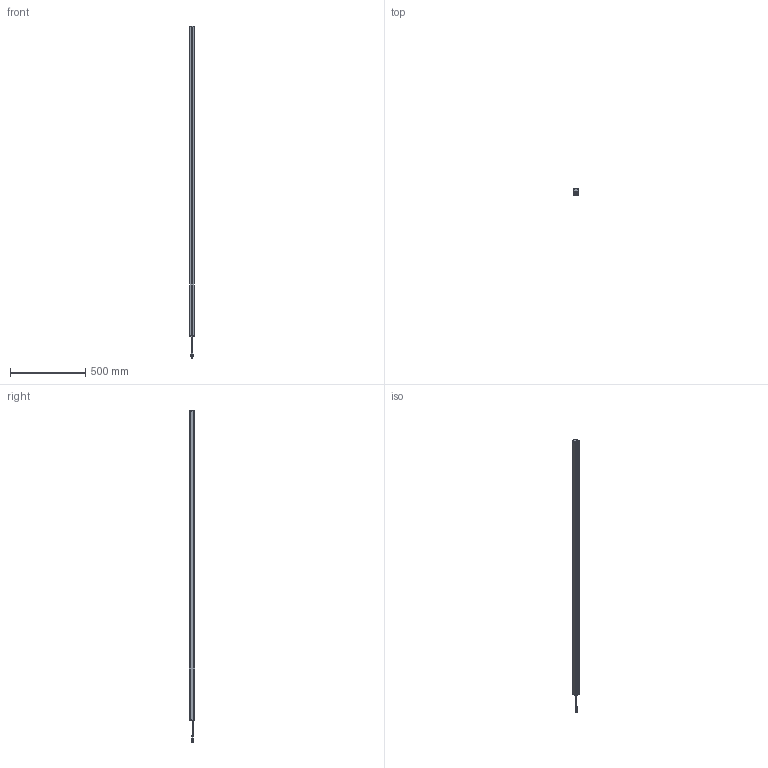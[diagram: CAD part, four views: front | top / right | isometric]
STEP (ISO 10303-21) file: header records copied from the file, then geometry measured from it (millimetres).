
FILE_DESCRIPTION((''),'2;1');
FILE_NAME('PRT0003','2026-04-01T16:04:20',('Administrator'),(''),'CREO PARAMETRIC BY PTC INC, 2016510','CREO PARAMETRIC BY PTC INC, 2016510','');
FILE_SCHEMA(('AUTOMOTIVE_DESIGN { 1 0 10303 214 1 1 1 1 }'));
Length unit declared in the file: millimetre
Products named in the file (1): PRT0003
Bounding box: 33 x 38 x 2201.9 mm (x, y, z)
Surface area: 442387.4 mm2 (no closed solid volume)
Topology: 0 solids, 12 shells, 622 faces, 1755 edges, 1153 vertices
Faces by surface type: plane 301, cylinder 225, torus 32, sphere 32, cone 28, bspline 4
Entity records: 25261 total; most frequent: CARTESIAN_POINT 4741, ORIENTED_EDGE 3422, DIRECTION 3374, EDGE_CURVE 1711, AXIS2_PLACEMENT_3D 1232, VERTEX_POINT 1153, VECTOR 910, LINE 910
